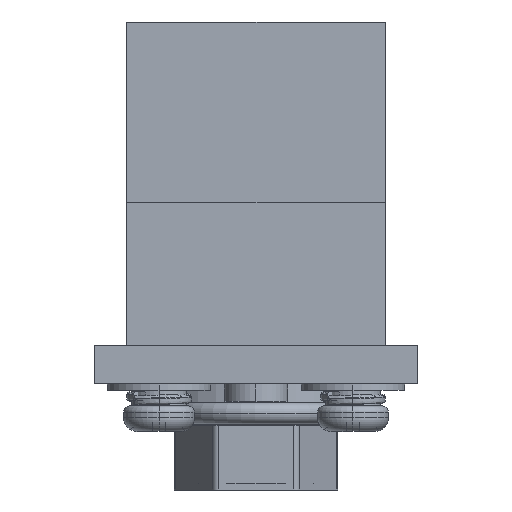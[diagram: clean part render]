
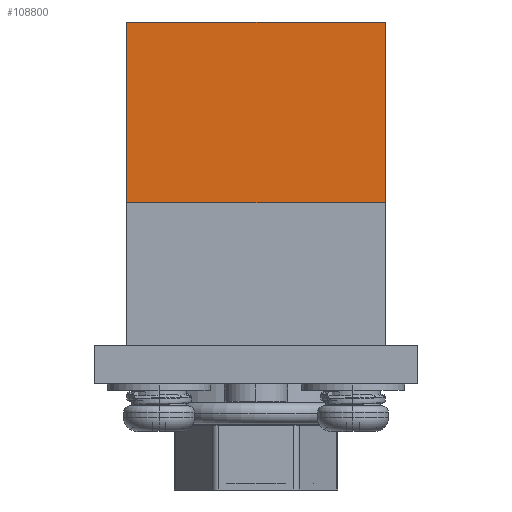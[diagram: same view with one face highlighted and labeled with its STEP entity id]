
A CAD part, left-side view. The second image highlights one B-rep face of the part: STEP entity #108800.
In plain terms, the highlighted planar face has unit normal (-1, 0, 0).
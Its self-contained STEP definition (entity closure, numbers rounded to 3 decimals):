
#106580=CARTESIAN_POINT('',(-27.488,66.46,28.));
#106590=VERTEX_POINT('',#106580);
#106640=CARTESIAN_POINT('',(-27.488,66.46,14.));
#106650=DIRECTION('',(0.,0.,1.));
#106660=VECTOR('',#106650,1.);
#106670=LINE('',#106640,#106660);
#106680=CARTESIAN_POINT('',(-27.488,66.46,14.));
#106690=VERTEX_POINT('',#106680);
#106700=EDGE_CURVE('',#106690,#106590,#106670,.T.);
#107400=CARTESIAN_POINT('',(-27.488,46.46,14.));
#107410=VERTEX_POINT('',#107400);
#107440=CARTESIAN_POINT('',(-27.488,46.46,14.));
#107450=DIRECTION('',(0.,0.,1.));
#107460=VECTOR('',#107450,1.);
#107470=LINE('',#107440,#107460);
#107480=CARTESIAN_POINT('',(-27.488,46.46,28.));
#107490=VERTEX_POINT('',#107480);
#107500=EDGE_CURVE('',#107410,#107490,#107470,.T.);
#108380=CARTESIAN_POINT('',(-27.488,66.46,14.));
#108390=DIRECTION('',(0.,-1.,0.));
#108400=VECTOR('',#108390,1.);
#108410=LINE('',#108380,#108400);
#108420=EDGE_CURVE('',#106690,#107410,#108410,.T.);
#108640=CARTESIAN_POINT('',(-27.488,66.46,28.));
#108650=DIRECTION('',(1.,0.,-0.));
#108660=DIRECTION('',(0.,0.,1.));
#108670=AXIS2_PLACEMENT_3D('',#108640,#108650,#108660);
#108680=PLANE('',#108670);
#108690=ORIENTED_EDGE('',*,*,#106700,.F.);
#108700=CARTESIAN_POINT('',(-27.488,66.46,28.));
#108710=DIRECTION('',(0.,-1.,0.));
#108720=VECTOR('',#108710,1.);
#108730=LINE('',#108700,#108720);
#108740=EDGE_CURVE('',#106590,#107490,#108730,.T.);
#108750=ORIENTED_EDGE('',*,*,#108740,.F.);
#108760=ORIENTED_EDGE('',*,*,#107500,.T.);
#108770=ORIENTED_EDGE('',*,*,#108420,.T.);
#108780=EDGE_LOOP('',(#108770,#108760,#108750,#108690));
#108790=FACE_OUTER_BOUND('',#108780,.T.);
#108800=ADVANCED_FACE('',(#108790),#108680,.F.);
